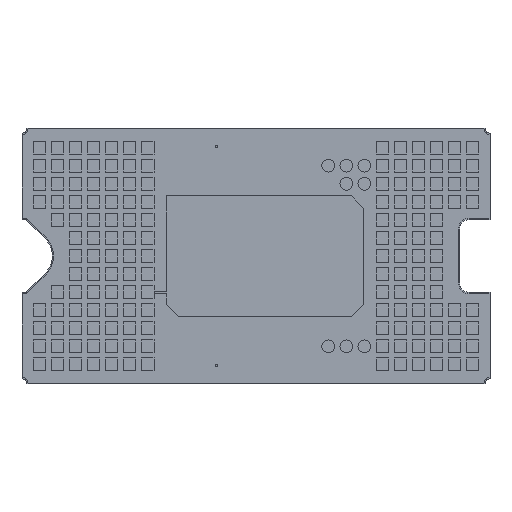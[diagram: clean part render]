
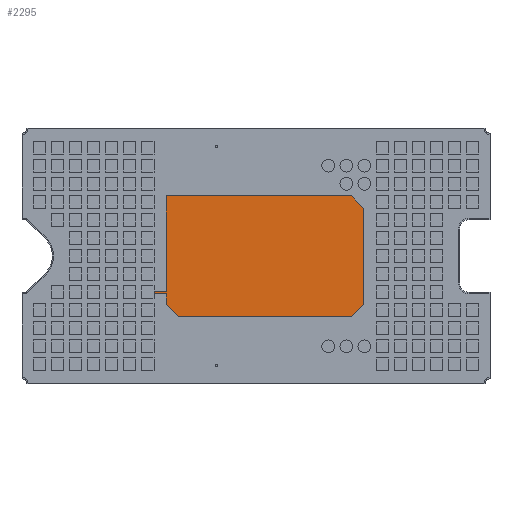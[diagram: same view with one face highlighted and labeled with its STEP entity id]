
A CAD part, front view. The second image highlights one B-rep face of the part: STEP entity #2295.
In plain terms, the highlighted planar face has unit normal (0, -1, 0).
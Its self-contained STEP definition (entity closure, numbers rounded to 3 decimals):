
#20 = VERTEX_POINT ( 'NONE', #3792 ) ;
#172 = CARTESIAN_POINT ( 'NONE',  ( -4.065, 0., -1.535 ) ) ;
#277 = VERTEX_POINT ( 'NONE', #5034 ) ;
#325 = CARTESIAN_POINT ( 'NONE',  ( 3.565, 0., -2.485 ) ) ;
#436 = LINE ( 'NONE', #937, #4159 ) ;
#508 = ORIENTED_EDGE ( 'NONE', *, *, #734, .F. ) ;
#617 = DIRECTION ( 'NONE',  ( 0., 0., 1. ) ) ;
#717 = VECTOR ( 'NONE', #617, 1000. ) ;
#734 = EDGE_CURVE ( 'NONE', #4617, #277, #4854, .T. ) ;
#803 = LINE ( 'NONE', #3827, #5238 ) ;
#912 = CARTESIAN_POINT ( 'NONE',  ( -3.565, 0., -2.485 ) ) ;
#937 = CARTESIAN_POINT ( 'NONE',  ( -4.065, 0., 2.485 ) ) ;
#946 = CARTESIAN_POINT ( 'NONE',  ( -4.565, 0., -1.535 ) ) ;
#951 = VERTEX_POINT ( 'NONE', #325 ) ;
#997 = EDGE_CURVE ( 'NONE', #4092, #3605, #5283, .T. ) ;
#1022 = LINE ( 'NONE', #172, #1454 ) ;
#1059 = CARTESIAN_POINT ( 'NONE',  ( -4.065, 0., -1.435 ) ) ;
#1261 = EDGE_CURVE ( 'NONE', #20, #5255, #4574, .T. ) ;
#1369 = AXIS2_PLACEMENT_3D ( 'NONE', #4645, #2484, #3342 ) ;
#1403 = ORIENTED_EDGE ( 'NONE', *, *, #3650, .F. ) ;
#1427 = ORIENTED_EDGE ( 'NONE', *, *, #1261, .T. ) ;
#1454 = VECTOR ( 'NONE', #4840, 1000. ) ;
#1510 = CARTESIAN_POINT ( 'NONE',  ( 3.565, 0., -2.485 ) ) ;
#1540 = DIRECTION ( 'NONE',  ( 0., 0., 1. ) ) ;
#1609 = VECTOR ( 'NONE', #3201, 1000. ) ;
#1626 = VERTEX_POINT ( 'NONE', #1921 ) ;
#1715 = CARTESIAN_POINT ( 'NONE',  ( -4.065, 0., -1.985 ) ) ;
#1828 = CARTESIAN_POINT ( 'NONE',  ( 4.065, 0., -1.985 ) ) ;
#1919 = CARTESIAN_POINT ( 'NONE',  ( -4.065, 0., -2.485 ) ) ;
#1921 = CARTESIAN_POINT ( 'NONE',  ( -4.065, 0., 2.485 ) ) ;
#1994 = LINE ( 'NONE', #3733, #2438 ) ;
#2046 = CARTESIAN_POINT ( 'NONE',  ( -4.565, 0., -1.535 ) ) ;
#2049 = VERTEX_POINT ( 'NONE', #1828 ) ;
#2098 = EDGE_CURVE ( 'NONE', #3007, #4617, #1022, .T. ) ;
#2295 = ADVANCED_FACE ( 'NONE', ( #2909 ), #4223, .F. ) ;
#2302 = ORIENTED_EDGE ( 'NONE', *, *, #2098, .F. ) ;
#2337 = CARTESIAN_POINT ( 'NONE',  ( 3.565, 0., 2.485 ) ) ;
#2423 = VECTOR ( 'NONE', #1540, 1000. ) ;
#2438 = VECTOR ( 'NONE', #4777, 1000. ) ;
#2484 = DIRECTION ( 'NONE',  ( 0., 1., 0. ) ) ;
#2686 = VECTOR ( 'NONE', #5145, 1000. ) ;
#2744 = CARTESIAN_POINT ( 'NONE',  ( -4.065, 0., -1.435 ) ) ;
#2801 = LINE ( 'NONE', #1919, #2423 ) ;
#2909 = FACE_OUTER_BOUND ( 'NONE', #3564, .T. ) ;
#2965 = EDGE_CURVE ( 'NONE', #4092, #3007, #3545, .T. ) ;
#2981 = VECTOR ( 'NONE', #4603, 1000. ) ;
#3007 = VERTEX_POINT ( 'NONE', #5248 ) ;
#3125 = DIRECTION ( 'NONE',  ( 0.707, 0., -0.707 ) ) ;
#3142 = ORIENTED_EDGE ( 'NONE', *, *, #3354, .F. ) ;
#3150 = EDGE_CURVE ( 'NONE', #3263, #1626, #2801, .T. ) ;
#3201 = DIRECTION ( 'NONE',  ( 1., 0., 0. ) ) ;
#3204 = ORIENTED_EDGE ( 'NONE', *, *, #4504, .F. ) ;
#3263 = VERTEX_POINT ( 'NONE', #2744 ) ;
#3342 = DIRECTION ( 'NONE',  ( 0., 0., 1. ) ) ;
#3354 = EDGE_CURVE ( 'NONE', #951, #3605, #803, .T. ) ;
#3499 = ORIENTED_EDGE ( 'NONE', *, *, #4713, .F. ) ;
#3519 = CARTESIAN_POINT ( 'NONE',  ( -4.065, 0., -2.485 ) ) ;
#3545 = LINE ( 'NONE', #3519, #717 ) ;
#3564 = EDGE_LOOP ( 'NONE', ( #4693, #3653, #3142, #5322, #3204, #1427, #1403, #4897, #3499, #508, #2302 ) ) ;
#3605 = VERTEX_POINT ( 'NONE', #912 ) ;
#3650 = EDGE_CURVE ( 'NONE', #1626, #5255, #436, .T. ) ;
#3653 = ORIENTED_EDGE ( 'NONE', *, *, #997, .T. ) ;
#3733 = CARTESIAN_POINT ( 'NONE',  ( 4.065, 0., -2.485 ) ) ;
#3792 = CARTESIAN_POINT ( 'NONE',  ( 4.065, 0., 1.985 ) ) ;
#3827 = CARTESIAN_POINT ( 'NONE',  ( -4.065, 0., -2.485 ) ) ;
#3936 = CARTESIAN_POINT ( 'NONE',  ( -4.065, 0., -1.985 ) ) ;
#3970 = DIRECTION ( 'NONE',  ( 1., 0., 0. ) ) ;
#4044 = VECTOR ( 'NONE', #5417, 1000. ) ;
#4092 = VERTEX_POINT ( 'NONE', #3936 ) ;
#4118 = LINE ( 'NONE', #1059, #1609 ) ;
#4159 = VECTOR ( 'NONE', #3970, 1000. ) ;
#4223 = PLANE ( 'NONE',  #1369 ) ;
#4326 = LINE ( 'NONE', #1510, #4044 ) ;
#4504 = EDGE_CURVE ( 'NONE', #20, #2049, #1994, .T. ) ;
#4530 = VECTOR ( 'NONE', #3125, 1000. ) ;
#4574 = LINE ( 'NONE', #5031, #2981 ) ;
#4603 = DIRECTION ( 'NONE',  ( -0.707, 0., 0.707 ) ) ;
#4617 = VERTEX_POINT ( 'NONE', #946 ) ;
#4645 = CARTESIAN_POINT ( 'NONE',  ( 4.065, 0., 2.485 ) ) ;
#4684 = EDGE_CURVE ( 'NONE', #951, #2049, #4326, .T. ) ;
#4693 = ORIENTED_EDGE ( 'NONE', *, *, #2965, .F. ) ;
#4713 = EDGE_CURVE ( 'NONE', #277, #3263, #4118, .T. ) ;
#4777 = DIRECTION ( 'NONE',  ( 0., 0., -1. ) ) ;
#4840 = DIRECTION ( 'NONE',  ( -1., 0., 0. ) ) ;
#4854 = LINE ( 'NONE', #2046, #2686 ) ;
#4897 = ORIENTED_EDGE ( 'NONE', *, *, #3150, .F. ) ;
#5031 = CARTESIAN_POINT ( 'NONE',  ( 4.065, 0., 1.985 ) ) ;
#5034 = CARTESIAN_POINT ( 'NONE',  ( -4.565, 0., -1.435 ) ) ;
#5145 = DIRECTION ( 'NONE',  ( 0., 0., 1. ) ) ;
#5238 = VECTOR ( 'NONE', #5314, 1000. ) ;
#5248 = CARTESIAN_POINT ( 'NONE',  ( -4.065, 0., -1.535 ) ) ;
#5255 = VERTEX_POINT ( 'NONE', #2337 ) ;
#5283 = LINE ( 'NONE', #1715, #4530 ) ;
#5314 = DIRECTION ( 'NONE',  ( -1., 0., 0. ) ) ;
#5322 = ORIENTED_EDGE ( 'NONE', *, *, #4684, .T. ) ;
#5417 = DIRECTION ( 'NONE',  ( 0.707, 0., 0.707 ) ) ;
